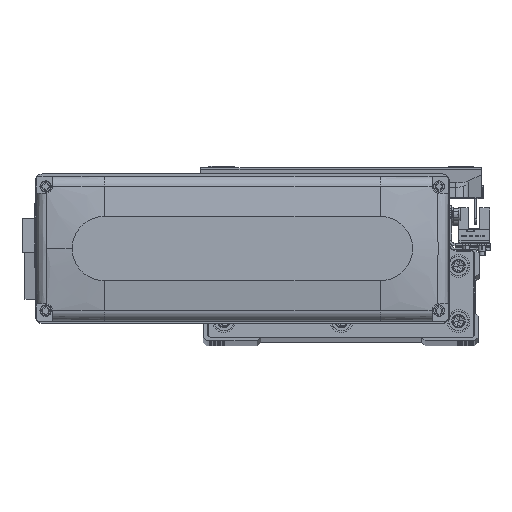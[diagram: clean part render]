
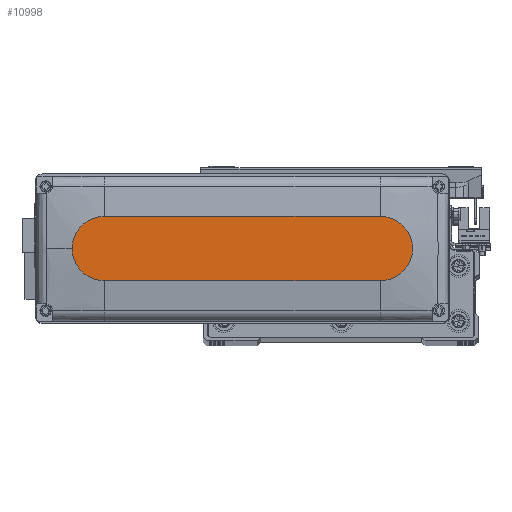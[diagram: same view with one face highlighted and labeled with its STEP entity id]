
A CAD part, top view. The second image highlights one B-rep face of the part: STEP entity #10998.
In plain terms, the highlighted planar face has unit normal (0, 0, 1).
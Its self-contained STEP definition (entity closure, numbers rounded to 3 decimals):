
#1054 = CARTESIAN_POINT ( 'NONE',  ( -60., -14., 28.5 ) ) ;
#1513 = CARTESIAN_POINT ( 'NONE',  ( 60., 0., 28.5 ) ) ;
#1531 = VECTOR ( 'NONE', #16071, 1000. ) ;
#1898 = DIRECTION ( 'NONE',  ( 0., 0., 1. ) ) ;
#3292 = AXIS2_PLACEMENT_3D ( 'NONE', #1513, #16541, #31596 ) ;
#4071 = DIRECTION ( 'NONE',  ( 1., 0., 0. ) ) ;
#4251 = CARTESIAN_POINT ( 'NONE',  ( 74., 0., 28.5 ) ) ;
#5614 = FACE_OUTER_BOUND ( 'NONE', #22540, .T. ) ;
#5727 = CIRCLE ( 'NONE', #33290, 14. ) ;
#8747 = CIRCLE ( 'NONE', #36312, 14. ) ;
#9685 = LINE ( 'NONE', #24718, #26105 ) ;
#10998 = ADVANCED_FACE ( 'NONE', ( #5614 ), #20628, .T. ) ;
#12423 = ORIENTED_EDGE ( 'NONE', *, *, #25365, .T. ) ;
#12551 = EDGE_CURVE ( 'NONE', #40600, #21367, #9685, .T. ) ;
#13569 = EDGE_CURVE ( 'NONE', #21367, #38810, #8747, .T. ) ;
#14181 = EDGE_CURVE ( 'NONE', #16746, #40600, #24550, .T. ) ;
#14435 = DIRECTION ( 'NONE',  ( 0., 0., 1. ) ) ;
#16071 = DIRECTION ( 'NONE',  ( 1., 0., 0. ) ) ;
#16541 = DIRECTION ( 'NONE',  ( 0., 0., 1. ) ) ;
#16746 = VERTEX_POINT ( 'NONE', #4251 ) ;
#16922 = DIRECTION ( 'NONE',  ( 1., 0., 0. ) ) ;
#19305 = EDGE_CURVE ( 'NONE', #39092, #16746, #5727, .T. ) ;
#20628 = PLANE ( 'NONE',  #26261 ) ;
#21367 = VERTEX_POINT ( 'NONE', #30328 ) ;
#22540 = EDGE_LOOP ( 'NONE', ( #23083, #23694, #12423, #36899, #43011 ) ) ;
#22795 = CARTESIAN_POINT ( 'NONE',  ( -60., 0., 28.5 ) ) ;
#23083 = ORIENTED_EDGE ( 'NONE', *, *, #12551, .T. ) ;
#23694 = ORIENTED_EDGE ( 'NONE', *, *, #13569, .T. ) ;
#24550 = CIRCLE ( 'NONE', #3292, 14. ) ;
#24718 = CARTESIAN_POINT ( 'NONE',  ( -60., 14., 28.5 ) ) ;
#25365 = EDGE_CURVE ( 'NONE', #38810, #39092, #34840, .T. ) ;
#26105 = VECTOR ( 'NONE', #39752, 1000. ) ;
#26261 = AXIS2_PLACEMENT_3D ( 'NONE', #35681, #1898, #16922 ) ;
#29483 = DIRECTION ( 'NONE',  ( 1., 0., 0. ) ) ;
#30328 = CARTESIAN_POINT ( 'NONE',  ( -60., 14., 28.5 ) ) ;
#31596 = DIRECTION ( 'NONE',  ( 1., 0., 0. ) ) ;
#33290 = AXIS2_PLACEMENT_3D ( 'NONE', #48239, #14435, #29483 ) ;
#34840 = LINE ( 'NONE', #1054, #1531 ) ;
#35681 = CARTESIAN_POINT ( 'NONE',  ( 0., 0., 28.5 ) ) ;
#36312 = AXIS2_PLACEMENT_3D ( 'NONE', #22795, #37838, #4071 ) ;
#36899 = ORIENTED_EDGE ( 'NONE', *, *, #19305, .T. ) ;
#37838 = DIRECTION ( 'NONE',  ( 0., 0., 1. ) ) ;
#38810 = VERTEX_POINT ( 'NONE', #42381 ) ;
#39092 = VERTEX_POINT ( 'NONE', #48275 ) ;
#39752 = DIRECTION ( 'NONE',  ( -1., 0., 0. ) ) ;
#40600 = VERTEX_POINT ( 'NONE', #48457 ) ;
#42381 = CARTESIAN_POINT ( 'NONE',  ( -60., -14., 28.5 ) ) ;
#43011 = ORIENTED_EDGE ( 'NONE', *, *, #14181, .T. ) ;
#48239 = CARTESIAN_POINT ( 'NONE',  ( 60., 0., 28.5 ) ) ;
#48275 = CARTESIAN_POINT ( 'NONE',  ( 60., -14., 28.5 ) ) ;
#48457 = CARTESIAN_POINT ( 'NONE',  ( 60., 14., 28.5 ) ) ;
